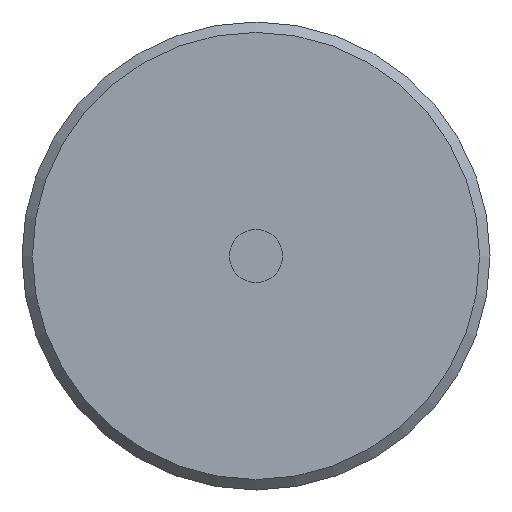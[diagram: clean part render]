
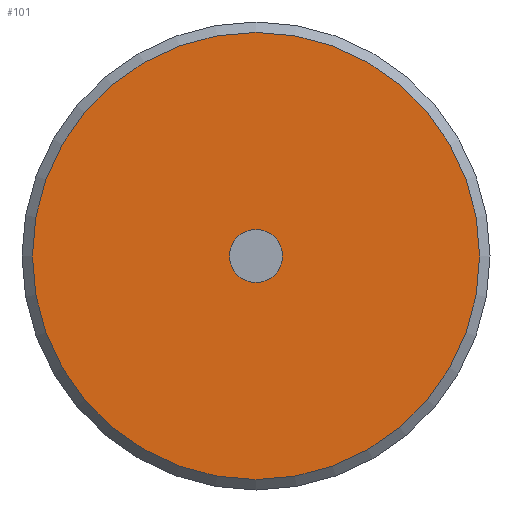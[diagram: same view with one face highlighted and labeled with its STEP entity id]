
A CAD part, front view. The second image highlights one B-rep face of the part: STEP entity #101.
In plain terms, the highlighted planar face has unit normal (0, -1, 0).
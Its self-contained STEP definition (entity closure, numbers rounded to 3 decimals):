
#55 = VERTEX_POINT('',#56);
#56 = CARTESIAN_POINT('',(-43.,0.,0.));
#64 = EDGE_CURVE('',#55,#55,#65,.T.);
#65 = CIRCLE('',#66,43.);
#66 = AXIS2_PLACEMENT_3D('',#67,#68,#69);
#67 = CARTESIAN_POINT('',(0.,0.,0.));
#68 = DIRECTION('',(0.,1.,0.));
#69 = DIRECTION('',(-1.,0.,0.));
#101 = ADVANCED_FACE('',(#102,#105),#116,.F.);
#102 = FACE_BOUND('',#103,.T.);
#103 = EDGE_LOOP('',(#104));
#104 = ORIENTED_EDGE('',*,*,#64,.F.);
#105 = FACE_BOUND('',#106,.T.);
#106 = EDGE_LOOP('',(#107));
#107 = ORIENTED_EDGE('',*,*,#108,.T.);
#108 = EDGE_CURVE('',#109,#109,#111,.T.);
#109 = VERTEX_POINT('',#110);
#110 = CARTESIAN_POINT('',(-5.1,0.,0.));
#111 = CIRCLE('',#112,5.1);
#112 = AXIS2_PLACEMENT_3D('',#113,#114,#115);
#113 = CARTESIAN_POINT('',(0.,0.,0.));
#114 = DIRECTION('',(0.,1.,0.));
#115 = DIRECTION('',(-1.,0.,0.));
#116 = PLANE('',#117);
#117 = AXIS2_PLACEMENT_3D('',#118,#119,#120);
#118 = CARTESIAN_POINT('',(0.,0.,0.));
#119 = DIRECTION('',(0.,1.,0.));
#120 = DIRECTION('',(-1.,0.,0.));
